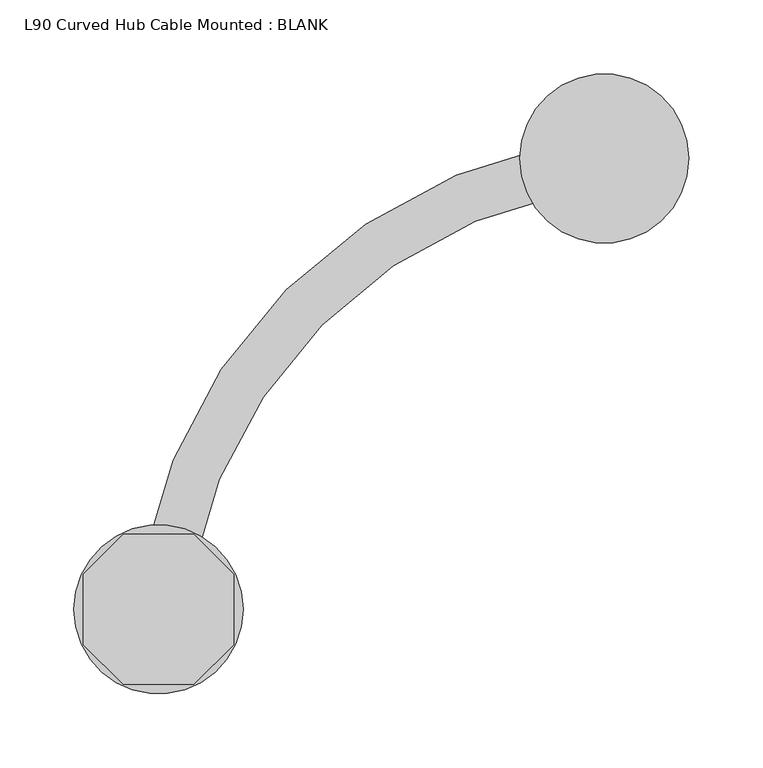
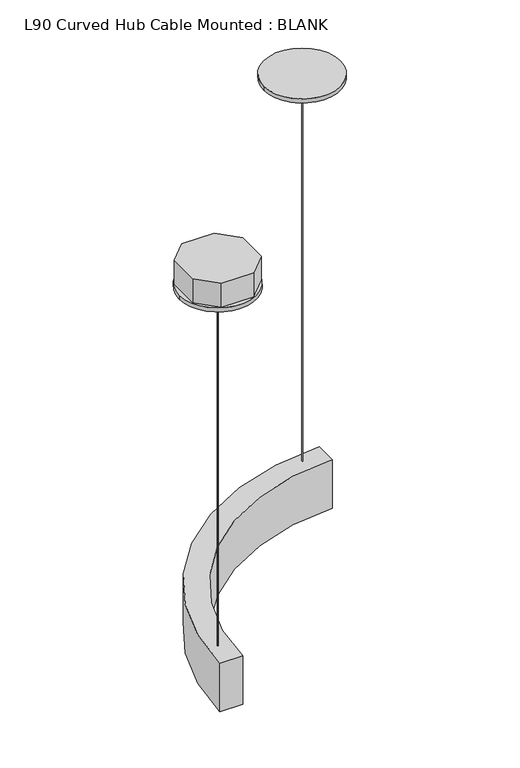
"""IFC4 building model written with IfcOpenShell, lengths in millimetres: light fixture geometry, L90 Curved Hub Cable Mounted : BLANK."""

from ifc_helpers import new_model, si_unit, point, frame, frame_2d, origin, origin_2d, place, context, project, spatial, polyline, circle_curve, trimmed, segment, composite_curve, outline, extrude, source, transform, mapped, element, save


def l90_curved_hub_cable_mounted_blank_851db5b4(model_context):
    return source(origin(), model_context, "Body", "SweptSolid", [
        extrude(outline(polyline([(23.8592316, 50.8), (50.8, 23.8592316), (50.8, -23.8592316), (23.8592316, -50.8), (-23.8592316, -50.8), (-50.8, -23.8592316), (-50.8, 23.8592316), (-23.8592316, 50.8), (23.8592316, 50.8)])), frame((0.0, 0.0, -38.1), z_axis=(0.0, 0.0, 1.0), x_axis=(1.0, 0.0, 0.0)), (0.0, 0.0, 1.0), 38.1),
        extrude(outline(composite_curve([segment(polyline([(16.891, -34.925), (-16.891, -34.925)]), True, "CONTINUOUS"), segment(trimmed(circle_curve(frame_2d((339.725, -34.925)), 356.616), [point((-16.891, -34.925))], [point((336.71899, 321.6783306))], False, "CARTESIAN"), True, "CONTINUOUS"), segment(polyline([(336.71899, 321.6783306), (336.71899, 287.8950047)]), True, "CONTINUOUS"), segment(trimmed(circle_curve(frame_2d((339.725, -34.925)), 322.834), [point((336.71899, 287.8950047))], [point((16.891, -34.925))], True, "CARTESIAN"), True, "CONTINUOUS")], self_intersect=False)), frame((0.0, 0.0, -685.8), z_axis=(0.0, 0.0, 1.0), x_axis=(1.0, 0.0, 0.0)), (0.0, 0.0, 1.0), 76.2),
        extrude(outline(composite_curve([segment(trimmed(circle_curve(frame_2d((301.3607751, 304.7866676)), 57.15), [point((358.5107751, 304.7866676))], [point((244.2107751, 304.7866676))], False, "CARTESIAN"), True, "CONTINUOUS"), segment(trimmed(circle_curve(frame_2d((301.3607751, 304.7866676)), 57.15), [point((244.2107751, 304.7866676))], [point((358.5107751, 304.7866676))], False, "CARTESIAN"), True, "CONTINUOUS")], self_intersect=False)), frame((0.0, 0.0, -6.35), z_axis=(0.0, 0.0, 1.0), x_axis=(1.0, 0.0, 0.0)), (0.0, 0.0, 1.0), 6.35),
        extrude(outline(composite_curve([segment(trimmed(circle_curve(frame_2d((301.79399, 304.7866676)), 1.5875), [point((300.20649, 304.7866676))], [point((303.38149, 304.7866676))], False, "CARTESIAN"), True, "CONTINUOUS"), segment(trimmed(circle_curve(frame_2d((301.79399, 304.7866676)), 1.5875), [point((303.38149, 304.7866676))], [point((300.20649, 304.7866676))], False, "CARTESIAN"), True, "CONTINUOUS")], self_intersect=False)), frame((0.0, 0.0, -38.1), z_axis=(0.0, 0.0, 1.0), x_axis=(1.0, 0.0, 0.0)), (0.0, 0.0, 1.0), 31.75),
        extrude(outline(composite_curve([segment(trimmed(circle_curve(frame_2d((301.79399, 304.7866676)), 0.79375), [point((301.00024, 304.7866676))], [point((302.58774, 304.7866676))], False, "CARTESIAN"), True, "CONTINUOUS"), segment(trimmed(circle_curve(frame_2d((301.79399, 304.7866676)), 0.79375), [point((302.58774, 304.7866676))], [point((301.00024, 304.7866676))], False, "CARTESIAN"), True, "CONTINUOUS")], self_intersect=False)), frame((0.0, 0.0, -609.6), z_axis=(0.0, 0.0, 1.0), x_axis=(1.0, 0.0, 0.0)), (0.0, 0.0, 1.0), 571.5),
        extrude(outline(composite_curve([segment(trimmed(circle_curve(origin_2d(), 57.15), [point((57.15, 0.0))], [point((-57.15, 0.0))], False, "CARTESIAN"), True, "CONTINUOUS"), segment(trimmed(circle_curve(origin_2d(), 57.15), [point((-57.15, 0.0))], [point((57.15, 0.0))], False, "CARTESIAN"), True, "CONTINUOUS")], self_intersect=False)), frame((0.0, 0.0, -44.45), z_axis=(0.0, 0.0, 1.0), x_axis=(1.0, 0.0, 0.0)), (0.0, 0.0, 1.0), 6.35),
        extrude(outline(composite_curve([segment(trimmed(circle_curve(origin_2d(), 1.5875), [point((-1.5875, 0.0))], [point((1.5875, 0.0))], False, "CARTESIAN"), True, "CONTINUOUS"), segment(trimmed(circle_curve(origin_2d(), 1.5875), [point((1.5875, 0.0))], [point((-1.5875, 0.0))], False, "CARTESIAN"), True, "CONTINUOUS")], self_intersect=False)), frame((0.0, 0.0, -82.55), z_axis=(0.0, 0.0, 1.0), x_axis=(1.0, 0.0, 0.0)), (0.0, 0.0, 1.0), 38.1),
        extrude(outline(composite_curve([segment(trimmed(circle_curve(origin_2d(), 0.79375), [point((-0.79375, 0.0))], [point((0.79375, 0.0))], False, "CARTESIAN"), True, "CONTINUOUS"), segment(trimmed(circle_curve(origin_2d(), 0.79375), [point((0.79375, 0.0))], [point((-0.79375, 0.0))], False, "CARTESIAN"), True, "CONTINUOUS")], self_intersect=False)), frame((0.0, 0.0, -609.6), z_axis=(0.0, 0.0, 1.0), x_axis=(1.0, 0.0, 0.0)), (0.0, 0.0, 1.0), 527.05),
    ])


if __name__ == "__main__":
    model = new_model("IFC4")
    model_context = context("Model", 3, world=origin())
    ifc_project = project(units=[si_unit("LENGTHUNIT", "METRE", prefix="MILLI")], contexts=[model_context])
    site = spatial("IfcSite", under=ifc_project)
    building = spatial("IfcBuilding", under=site)
    placement = place(None, origin())
    l90_curved_hub_cable_mounted_blank_shape = l90_curved_hub_cable_mounted_blank_851db5b4(model_context)
    element("IfcLightFixture", 1, ObjectType="L90 Curved Hub Cable Mounted : BLANK", at=placement, inside=building, context=model_context, shape_type="MappedRepresentation", body=[
        mapped(l90_curved_hub_cable_mounted_blank_shape, transform((0.0, 0.0, 0.0), x_axis=(1.0, 0.0, 0.0), y_axis=(0.0, 1.0, 0.0), z_axis=(0.0, 0.0, 1.0))),
    ])
    save(model, "model.ifc")
